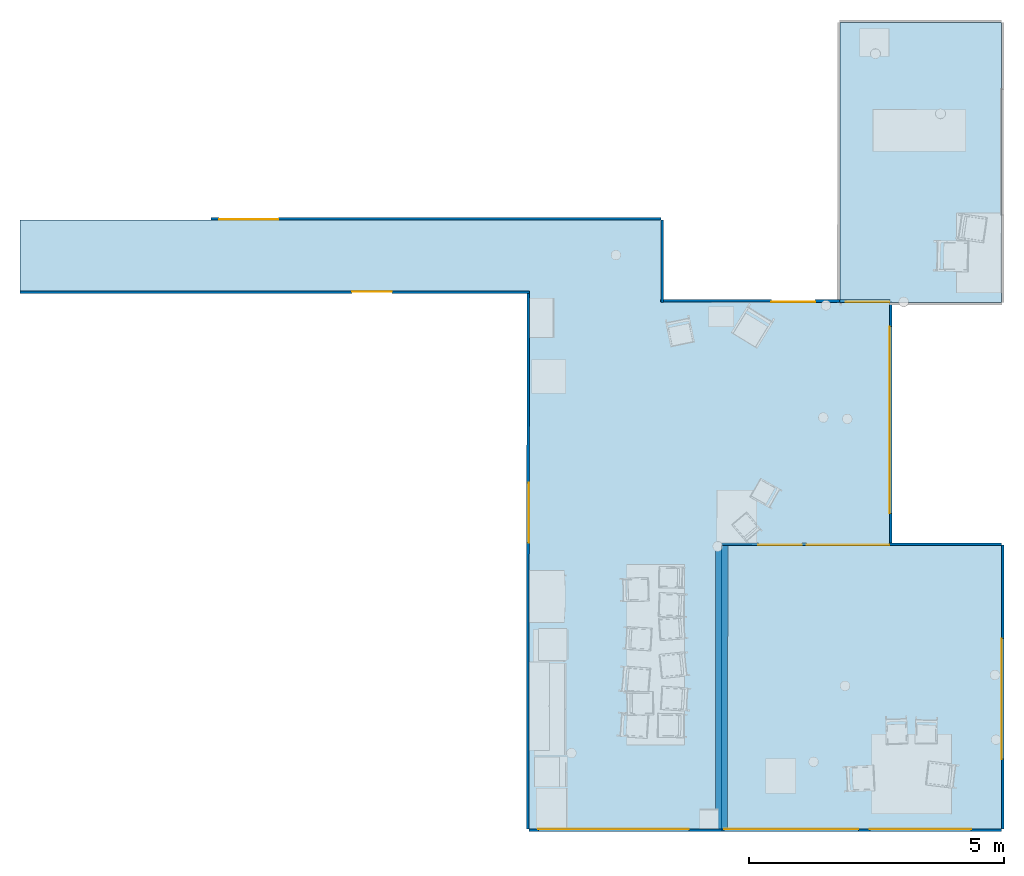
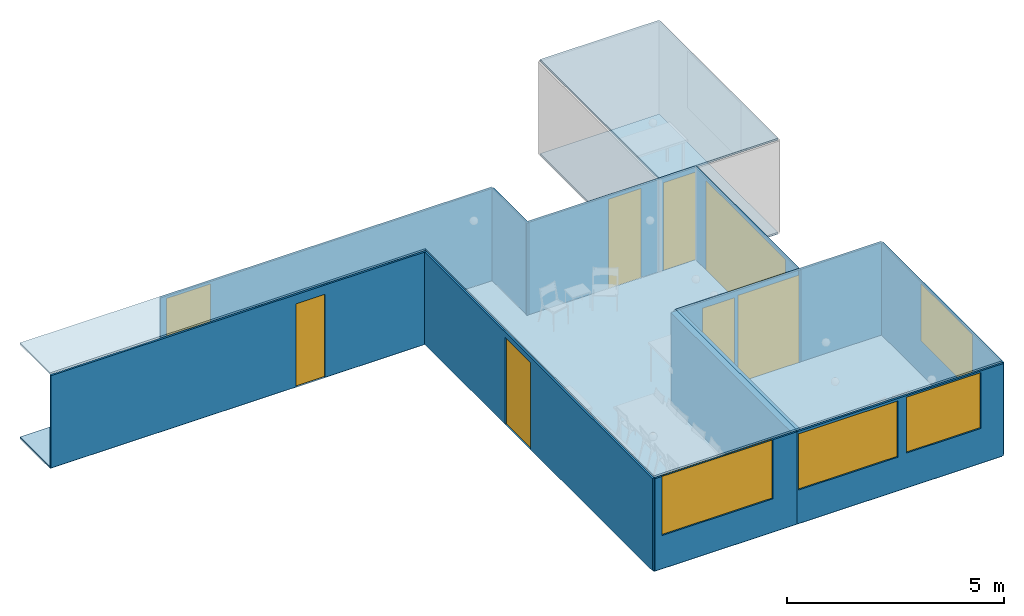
# One storey, part 1 of 12: 13 walls, 6 doors, 6 slabs, 6 windows, 12 openings.
"""IFC2X3 building model written with IfcOpenShell, lengths in metres."""

from ifc_helpers import new_model, si_unit, direction, frame, origin_with_axes, place, context, subcontext, project, spatial, polyline, outline, extrude, type_object, element, fill, save


model = new_model("IFC2X3")

# Units and contexts
model_context = context("Model", 3, precision=1e-05, world=origin_with_axes(), true_north=direction((0.999, -0.05, 0.0)))
body_context = subcontext(model_context, "Body", "Model", "MODEL_VIEW")
ifc_project = project(units=[si_unit("LENGTHUNIT", "METRE"), si_unit("AREAUNIT", "SQUARE_METRE")], contexts=[model_context])

# Site, building, storey
site_placement = place(None, origin_with_axes())
site = spatial("IfcSite", under=ifc_project, at=site_placement, Name="Site", CompositionType="ELEMENT")
building_placement = place(site_placement, origin_with_axes())
building = spatial("IfcBuilding", under=site, at=building_placement, Name="Building", CompositionType="ELEMENT")
storey_placement = place(building_placement, frame((0.0, 0.0, 5.96046447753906e-08), z_axis=(0.0, 0.0, 1.0), x_axis=(1.0, 0.0, 0.0)))
storey = spatial("IfcBuildingStorey", under=building, at=storey_placement, Name="Story 0", CompositionType="ELEMENT", Elevation=5.96046447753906e-08)

# Slabs
slab_type_1 = type_object("IfcSlabType", PredefinedType="FLOOR")
slab_1_placement = place(storey_placement, frame((4.93586017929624, 4.51694772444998, 0.0), z_axis=(0.0, 0.0, 1.0), x_axis=(-0.00965765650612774, 0.999953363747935, 0.0)))
element("IfcSlab", 1, at=slab_1_placement, inside=storey, type_object=slab_type_1, Name="Floor", ObjectType="Floor:Floor-Grnd-Susp_65Scr-80Ins-100Blk-75PC", PredefinedType="FLOOR", context=body_context, shape_type="SweptSolid", body=[
    extrude(outline(polyline([(0.510087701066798, 2.19046975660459), (1.48679288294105, 2.19046975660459), (1.43132437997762, -3.31276592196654), (-1.74178703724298, -3.28078206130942), (-1.6864179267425, 2.21260847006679), (0.510087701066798, 2.19046975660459)])), frame((0.0, 0.0, 0.0), z_axis=(0.0, 0.0, 1.0), x_axis=(0.0, 1.0, 0.0)), (0.0, 0.0, -1.0), 0.05),
])
slab_type_2 = type_object("IfcSlabType", PredefinedType="FLOOR")
slab_2_placement = place(storey_placement, frame((4.00673294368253, -4.68050126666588, 0.0), z_axis=(0.0, 0.0, 1.0), x_axis=(-0.000420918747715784, -0.9999999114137, 0.0)))
element("IfcSlab", 2, at=slab_2_placement, inside=storey, type_object=slab_type_2, Name="Floor", ObjectType="Floor:Floor-Grnd-Susp_65Scr-80Ins-100Blk-75PC", PredefinedType="FLOOR", context=body_context, shape_type="SweptSolid", body=[
    extrude(outline(polyline([(-2.85684441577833, 2.22703204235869), (0.437270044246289, 2.22703204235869), (2.63821109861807, 2.22703189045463), (2.63820872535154, -3.34054842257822), (-2.85684545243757, -3.34054755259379), (-2.85684441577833, 2.22703204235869)])), frame((0.0, 0.0, 0.0), z_axis=(0.0, 0.0, 1.0), x_axis=(0.0, 1.0, 0.0)), (0.0, 0.0, -1.0), 0.05),
])
slab_type_3 = type_object("IfcSlabType", PredefinedType="FLOOR")
slab_3_placement = place(storey_placement, frame((-1.0139318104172, 0.540352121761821, 0.0), z_axis=(0.0, 0.0, 1.0), x_axis=(-0.999999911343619, 0.000421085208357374, 0.0)))
element("IfcSlab", 3, at=slab_3_placement, inside=storey, type_object=slab_type_3, Name="Floor", ObjectType="Floor:Floor-Grnd-Susp_65Scr-80Ins-100Blk-75PC", PredefinedType="FLOOR", context=body_context, shape_type="SweptSolid", body=[
    extrude(outline(polyline([(-2.00071425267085, -1.61392851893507), (8.55928539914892, -1.61392851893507), (8.55928555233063, 2.16607150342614), (2.98928573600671, 2.16607139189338), (2.98928570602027, 5.46107134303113), (-1.77571432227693, 5.46107142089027), (-1.78571409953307, 7.19107146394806), (-1.78571436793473, 5.46107149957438), (-1.77571424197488, 4.48107132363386), (-1.78571422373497, 0.966071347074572), (-3.39571417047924, 0.966071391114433), (-3.39571426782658, -7.86392868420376), (-3.39571427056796, -11.6139285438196), (-2.0007141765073, -11.6139284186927), (-2.00071425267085, -1.61392851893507)])), frame((0.0, 0.0, 0.0), z_axis=(0.0, 0.0, 1.0), x_axis=(0.0, 1.0, 0.0)), (0.0, 0.0, -1.0), 0.05),
])
slab_type_4 = type_object("IfcSlabType", PredefinedType="ROOF")
slab_4_placement = place(storey_placement, frame((6.64356807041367, 2.32072928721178, 2.65180562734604), z_axis=(0.0, 0.0, -1.0), x_axis=(-0.999999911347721, 0.000421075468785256, 0.0)))
element("IfcSlab", 4, at=slab_4_placement, inside=storey, type_object=slab_type_4, Name="Ceiling", PredefinedType="ROOF", context=body_context, shape_type="SweptSolid", body=[
    extrude(outline(polyline([(-7.89299181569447e-17, 0.0), (5.49366956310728, 0.0), (5.4936709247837, -3.1732726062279), (-0.00984428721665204, -3.17327276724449), (-3.57486194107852e-07, -2.19661719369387), (-7.89299181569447e-17, 0.0)])), frame((0.0, 0.0, 0.0), z_axis=(0.0, 0.0, 1.0), x_axis=(0.0, 1.0, 0.0)), (0.0, 0.0, 1.0), 0.05),
])
slab_type_5 = type_object("IfcSlabType", PredefinedType="ROOF")
slab_5_placement = place(storey_placement, frame((1.14848164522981, -8.01984602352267, 2.65180562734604), z_axis=(0.0, 0.0, -1.0), x_axis=(0.000421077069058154, 0.999999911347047, 0.0)))
element("IfcSlab", 5, at=slab_5_placement, inside=storey, type_object=slab_type_5, Name="Ceiling", PredefinedType="ROOF", context=body_context, shape_type="SweptSolid", body=[
    extrude(outline(polyline([(4.29152284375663e-32, -1.8550699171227e-16), (5.49505417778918, -1.8550699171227e-16), (5.49505566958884, -5.56758031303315), (3.29411461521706, -5.56758011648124), (1.55192481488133e-07, -5.56757959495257), (4.29152284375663e-32, -1.8550699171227e-16)])), frame((0.0, 0.0, 0.0), z_axis=(0.0, 0.0, 1.0), x_axis=(2.31340220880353e-16, 1.0, 0.0)), (0.0, 0.0, 1.0), 0.05),
])
slab_type_6 = type_object("IfcSlabType", PredefinedType="ROOF")
slab_6_placement = place(storey_placement, frame((-12.6270167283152, 2.54595657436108, 2.65180562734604), z_axis=(0.0, 0.0, -1.0), x_axis=(-0.999999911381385, 0.000420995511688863, 0.0)))
element("IfcSlab", 6, at=slab_6_placement, inside=storey, type_object=slab_type_6, Name="Ceiling", PredefinedType="ROOF", context=body_context, shape_type="SweptSolid", body=[
    extrude(outline(polyline([(1.17961196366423e-16, -1.50208719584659e-31), (1.39500009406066, -3.47305812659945e-31), (1.39499975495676, 3.74999985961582), (1.39499886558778, 12.579999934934), (-0.215001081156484, 12.5799997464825), (-0.225001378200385, 16.0949997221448), (-0.215001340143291, 17.0749998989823), (-0.215001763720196, 18.8049998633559), (-0.225001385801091, 17.0749998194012), (-4.99000141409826, 17.0749993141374), (-4.99000114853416, 13.7799993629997), (-10.5600009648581, 13.7799989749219), (-10.5600004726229, 9.99999895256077), (-8.20803193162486e-07, 9.99999989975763), (1.17961196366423e-16, -1.50208719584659e-31)])), frame((0.0, 0.0, 0.0), z_axis=(0.0, 0.0, 1.0), x_axis=(-1.27337399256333e-15, 1.0, 0.0)), (0.0, 0.0, 1.0), 0.05),
])

# Wall, opening, door
wall_type_1 = type_object("IfcWallType", PredefinedType="STANDARD")
wall_1_placement = place(storey_placement, frame((3.46029572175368, 2.32206931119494, 2.60180562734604), z_axis=(0.0, 0.0, 0.99999997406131), x_axis=(-0.99999991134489, 0.000421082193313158, 0.0)))
wall_1 = element("IfcWallStandardCase", 7, at=wall_1_placement, inside=storey, type_object=wall_type_1, Name="Wall", context=body_context, shape_type="SweptSolid", body=[
    extrude(outline(polyline([(4.44089209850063e-16, 0.0), (0.996655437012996, 0.0), (0.996655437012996, -2.60180569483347), (4.44089209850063e-16, -2.60180569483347), (4.44089209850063e-16, 0.0)])), frame((0.0, 0.0, 0.0), z_axis=(0.0, 1.0, 0.0), x_axis=(-1.0, 0.0, 0.0)), (0.0, 0.0, -1.0), 0.05),
])
opening_1_placement = place(wall_1_placement, frame((-0.986655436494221, 0.0, -2.60180550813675), z_axis=(0.0, 0.0, 0.999999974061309), x_axis=(1.0, 0.0, 0.0)))
opening_1 = element("IfcOpeningElement", 8, at=opening_1_placement, cuts=wall_1, Name="OpeningElement", ObjectType="OPENING", context=body_context, shape_type="SweptSolid", body=[
    extrude(outline(polyline([(8.88178419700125e-16, 0.0), (8.88178419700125e-16, 2.46482217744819), (-0.856635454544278, 2.46482217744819), (-0.856635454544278, 0.0), (8.88178419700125e-16, 0.0)])), frame((0.0, 0.0, 0.0), z_axis=(0.0, 1.0, 0.0), x_axis=(-1.0, 0.0, 0.0)), (0.0, 0.0, -1.0), 0.05),
])
door_style_1 = type_object("IfcDoorStyle", Name="46522e81-1e2b-44fb-b676-12bd0fbe705c", ConstructionType="NOTDEFINED", OperationType="NOTDEFINED", ParameterTakesPrecedence=False, Sizeable=False)
door_1_placement = place(opening_1_placement, origin_with_axes())
door_1 = element("IfcDoor", 9, at=door_1_placement, inside=storey, type_object=door_style_1, Name="Door", OverallHeight=2.46482211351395, OverallWidth=0.856635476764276, context=body_context, shape_type="SweptSolid", body=[
    extrude(outline(polyline([(8.88178419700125e-16, 0.0), (8.88178419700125e-16, 2.46482217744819), (-0.856635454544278, 2.46482217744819), (-0.856635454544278, 0.0), (8.88178419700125e-16, 0.0)])), frame((0.0, 0.0, 0.0), z_axis=(0.0, 1.0, 0.0), x_axis=(-1.0, 0.0, 0.0)), (0.0, 0.0, -1.0), 0.01),
])
fill(opening_1, door_1)

# Wall, openings, door, window
wall_type_2 = type_object("IfcWallType", PredefinedType="STANDARD")
wall_2_placement = place(storey_placement, frame((1.14082618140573, -2.45226271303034, 0.0), z_axis=(0.0, 0.0, 0.999999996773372), x_axis=(-0.999999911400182, 0.000420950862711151, 0.0)))
wall_2 = element("IfcWallStandardCase", 10, at=wall_2_placement, inside=storey, type_object=wall_type_2, Name="Wall", context=body_context, shape_type="SweptSolid", body=[
    extrude(outline(polyline([(2.22044604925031e-16, 0.0), (2.22044604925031e-16, 2.6018056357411), (3.31411446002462, 2.6018056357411), (3.31411446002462, 0.0), (2.22044604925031e-16, 0.0)])), frame((0.0, 0.0, 0.0), z_axis=(0.0, 1.0, 0.0), x_axis=(-1.0, 0.0, 0.0)), (0.0, 0.0, -1.0), 0.05),
])
opening_2_placement = place(wall_2_placement, frame((-0.729658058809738, 0.0, 0.0), z_axis=(0.0, 0.0, 0.999999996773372), x_axis=(1.0, 0.0, 0.0)))
opening_2 = element("IfcOpeningElement", 11, at=opening_2_placement, cuts=wall_2, Name="OpeningElement", ObjectType="OPENING", context=body_context, shape_type="SweptSolid", body=[
    extrude(outline(polyline([(-2.22044604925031e-16, 0.0), (0.853934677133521, 0.0), (0.853934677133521, 2.42267221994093), (-2.22044604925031e-16, 2.42267221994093), (-2.22044604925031e-16, 0.0)])), frame((0.0, 0.0, 0.0), z_axis=(0.0, 1.0, 0.0), x_axis=(-1.0, 0.0, 0.0)), (0.0, 0.0, -1.0), 0.05),
])
opening_3_placement = place(wall_2_placement, frame((-3.30411442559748, 0.0, 0.0), z_axis=(0.0, 0.0, 0.999999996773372), x_axis=(1.0, 0.0, 0.0)))
opening_3 = element("IfcOpeningElement", 12, at=opening_3_placement, cuts=wall_2, Name="OpeningElement", ObjectType="OPENING", context=body_context, shape_type="SweptSolid", body=[
    extrude(outline(polyline([(0.0, 0.0), (0.0, 2.45762569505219), (-1.62419551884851, 2.45762569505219), (-1.62419551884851, 0.0), (0.0, 0.0)])), frame((0.0, 0.0, 0.0), z_axis=(0.0, 1.0, 0.0), x_axis=(-1.0, 0.0, 0.0)), (0.0, 0.0, -1.0), 0.05),
])
door_style_2 = type_object("IfcDoorStyle", Name="f192639b-d93c-490f-be9a-8558bc25e8b2", ConstructionType="NOTDEFINED", OperationType="NOTDEFINED", ParameterTakesPrecedence=False, Sizeable=False)
door_2_placement = place(opening_2_placement, origin_with_axes())
door_2 = element("IfcDoor", 13, at=door_2_placement, inside=storey, type_object=door_style_2, Name="Door", OverallHeight=2.42267221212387, OverallWidth=0.853934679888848, context=body_context, shape_type="SweptSolid", body=[
    extrude(outline(polyline([(-2.22044604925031e-16, 0.0), (0.853934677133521, 0.0), (0.853934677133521, 2.42267221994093), (-2.22044604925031e-16, 2.42267221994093), (-2.22044604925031e-16, 0.0)])), frame((0.0, 0.0, 0.0), z_axis=(0.0, 1.0, 0.0), x_axis=(-1.0, 0.0, 0.0)), (0.0, 0.0, -1.0), 0.01),
])
fill(opening_2, door_2)
window_style_1 = type_object("IfcWindowStyle", Name="9a584cee-ccff-41c9-80c4-704219f328ca", ConstructionType="ALUMINIUM", OperationType="SINGLE_PANEL", ParameterTakesPrecedence=True, Sizeable=True)
window_1_placement = place(opening_3_placement, origin_with_axes())
window_1 = element("IfcWindow", 14, at=window_1_placement, inside=storey, type_object=window_style_1, Name="Window", OverallHeight=1.5, OverallWidth=0.5, context=body_context, shape_type="SweptSolid", body=[
    extrude(outline(polyline([(0.0, 0.0), (0.0, 2.45762569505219), (-1.62419551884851, 2.45762569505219), (-1.62419551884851, 0.0), (0.0, 0.0)])), frame((0.0, 0.0, 0.0), z_axis=(0.0, 1.0, 0.0), x_axis=(-1.0, 0.0, 0.0)), (0.0, 0.0, -1.0), 0.01),
])
fill(opening_3, window_1)

# Wall
wall_type_3 = type_object("IfcWallType", PredefinedType="STANDARD")
wall_3_placement = place(storey_placement, frame((4.43994034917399, -2.45365137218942, 2.60180562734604), z_axis=(0.0, 0.0, 0.999999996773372), x_axis=(-0.999999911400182, 0.000420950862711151, 0.0)))
element("IfcWallStandardCase", 15, at=wall_3_placement, inside=storey, type_object=wall_type_3, Name="Wall", context=body_context, shape_type="SweptSolid", body=[
    extrude(outline(polyline([(0.0, 0.0), (2.21094060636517, 0.0), (2.21094060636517, -2.6018056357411), (0.0, -2.6018056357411), (0.0, 0.0)])), frame((0.0, 0.0, 0.0), z_axis=(0.0, 1.0, 0.0), x_axis=(-1.0, 0.0, 0.0)), (0.0, 0.0, -1.0), 0.05),
])

# Wall, opening, window
wall_type_4 = type_object("IfcWallType", PredefinedType="STANDARD")
wall_4_placement = place(storey_placement, frame((6.64588331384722, -2.44958004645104, 0.0), z_axis=(0.0, 0.0, 0.999999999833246), x_axis=(0.000421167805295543, 0.999999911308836, 0.0)))
wall_4 = element("IfcWallStandardCase", 16, at=wall_4_placement, inside=storey, type_object=wall_type_4, Name="Wall", context=body_context, shape_type="SweptSolid", body=[
    extrude(outline(polyline([(-5.20417042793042e-17, 0.0), (-5.20417042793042e-17, 2.6018056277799), (5.5775801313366, 2.6018056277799), (5.5775801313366, 0.0), (-5.20417042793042e-17, 0.0)])), frame((0.0, 0.0, 0.0), z_axis=(0.0, 1.0, 0.0), x_axis=(-1.0, 0.0, 0.0)), (0.0, 0.0, -1.0), 0.05),
])
opening_4_placement = place(wall_4_placement, frame((-1.83200303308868, 0.0, 2.5576257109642), z_axis=(0.0, 0.0, 0.999999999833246), x_axis=(1.0, 0.0, 0.0)))
opening_4 = element("IfcOpeningElement", 17, at=opening_4_placement, cuts=wall_4, Name="OpeningElement", ObjectType="OPENING", context=body_context, shape_type="SweptSolid", body=[
    extrude(outline(polyline([(3.94649590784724e-17, 0.0), (3.94649590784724e-17, -1.61371445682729), (2.37026546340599, -1.61371445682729), (2.37026546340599, 0.0), (3.94649590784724e-17, 0.0)])), frame((0.0, 0.0, 0.0), z_axis=(0.0, 1.0, 0.0), x_axis=(-1.0, 0.0, 0.0)), (0.0, 0.0, -1.0), 0.05),
])
window_style_2 = type_object("IfcWindowStyle", Name="44de0ee3-9e7e-4639-b1b3-e5b4b995d6e7", ConstructionType="ALUMINIUM", OperationType="SINGLE_PANEL", ParameterTakesPrecedence=True, Sizeable=True)
window_2_placement = place(opening_4_placement, origin_with_axes())
window_2 = element("IfcWindow", 18, at=window_2_placement, inside=storey, type_object=window_style_2, Name="Window", OverallHeight=1.5, OverallWidth=0.5, context=body_context, shape_type="SweptSolid", body=[
    extrude(outline(polyline([(3.94649590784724e-17, 0.0), (3.94649590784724e-17, -1.61371445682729), (2.37026546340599, -1.61371445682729), (2.37026546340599, 0.0), (3.94649590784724e-17, 0.0)])), frame((0.0, 0.0, 0.0), z_axis=(0.0, 1.0, 0.0), x_axis=(-1.0, 0.0, 0.0)), (0.0, 0.0, -1.0), 0.01),
])
fill(opening_4, window_2)

# Wall
wall_type_5 = type_object("IfcWallType", PredefinedType="STANDARD")
wall_5_placement = place(storey_placement, frame((1.2687817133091, -8.01989668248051, 0.0), z_axis=(0.0, 0.0, 1.00000003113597), x_axis=(-0.000421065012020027, -0.999999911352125, 0.0)))
element("IfcWallStandardCase", 19, at=wall_5_placement, inside=storey, type_object=wall_type_5, Name="Wall", context=body_context, shape_type="SweptSolid", body=[
    extrude(outline(polyline([(3.31223763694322e-16, 0.0), (3.31223763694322e-16, 2.6018055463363), (5.56757959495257, 2.6018055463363), (5.56757959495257, 0.0), (3.31223763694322e-16, 0.0)])), frame((0.0, 0.0, 0.0), z_axis=(0.0, 1.0, 0.0), x_axis=(-1.0, 0.0, 0.0)), (0.0, 0.0, -1.0), 0.24060015),
])

# Wall, openings, windows
wall_type_6 = type_object("IfcWallType", PredefinedType="STANDARD")
wall_6_placement = place(storey_placement, frame((6.64853533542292, -8.02216197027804, 0.0), z_axis=(0.0, 0.0, 1.00000003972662), x_axis=(0.999999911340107, -0.000421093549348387, 0.0)))
wall_6 = element("IfcWallStandardCase", 20, at=wall_6_placement, inside=storey, type_object=wall_type_6, Name="Wall", context=body_context, shape_type="SweptSolid", body=[
    extrude(outline(polyline([(0.0, 0.0), (0.0, 2.60180552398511), (5.50505440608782, 2.60180552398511), (5.50505440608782, 0.0), (0.0, 0.0)])), frame((0.0, 0.0, 0.0), z_axis=(0.0, 1.0, 0.0), x_axis=(-1.0, 0.0, 0.0)), (0.0, 0.0, -1.0), 0.05),
])
opening_5_placement = place(wall_6_placement, frame((-2.81135728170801, 0.0, 2.5313326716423), z_axis=(0.0, 0.0, 1.00000003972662), x_axis=(1.0, 0.0, 0.0)))
opening_5 = element("IfcOpeningElement", 21, at=opening_5_placement, cuts=wall_6, Name="OpeningElement", ObjectType="OPENING", context=body_context, shape_type="SweptSolid", body=[
    extrude(outline(polyline([(0.0, 0.0), (0.0, -1.58551674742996), (2.63990953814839, -1.58551674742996), (2.63990953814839, 0.0), (0.0, 0.0)])), frame((0.0, 0.0, 0.0), z_axis=(0.0, 1.0, 0.0), x_axis=(-1.0, 0.0, 0.0)), (0.0, 0.0, -1.0), 0.05),
])
opening_6_placement = place(wall_6_placement, frame((-0.599556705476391, 0.0, 2.55762547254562), z_axis=(0.0, 0.0, 1.00000003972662), x_axis=(1.0, 0.0, 0.0)))
opening_6 = element("IfcOpeningElement", 22, at=opening_6_placement, cuts=wall_6, Name="OpeningElement", ObjectType="OPENING", context=body_context, shape_type="SweptSolid", body=[
    extrude(outline(polyline([(0.0, 0.0), (0.0, -1.57631319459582), (1.9858778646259, -1.57631319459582), (1.9858778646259, 0.0), (0.0, 0.0)])), frame((0.0, 0.0, 0.0), z_axis=(0.0, 1.0, 0.0), x_axis=(-1.0, 0.0, 0.0)), (0.0, 0.0, -1.0), 0.05),
])
window_style_3 = type_object("IfcWindowStyle", Name="4037f67b-db75-44e2-acdc-bd9fff1bc3bb", ConstructionType="ALUMINIUM", OperationType="SINGLE_PANEL", ParameterTakesPrecedence=True, Sizeable=True)
window_3_placement = place(opening_5_placement, origin_with_axes())
window_3 = element("IfcWindow", 23, at=window_3_placement, inside=storey, type_object=window_style_3, Name="Window", OverallHeight=1.5, OverallWidth=0.5, context=body_context, shape_type="SweptSolid", body=[
    extrude(outline(polyline([(0.0, 0.0), (0.0, -1.58551674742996), (2.63990953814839, -1.58551674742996), (2.63990953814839, 0.0), (0.0, 0.0)])), frame((0.0, 0.0, 0.0), z_axis=(0.0, 1.0, 0.0), x_axis=(-1.0, 0.0, 0.0)), (0.0, 0.0, -1.0), 0.01),
])
fill(opening_5, window_3)
window_style_4 = type_object("IfcWindowStyle", Name="9d87d5b0-3157-416e-b5c1-8492e233b7ea", ConstructionType="ALUMINIUM", OperationType="SINGLE_PANEL", ParameterTakesPrecedence=True, Sizeable=True)
window_4_placement = place(opening_6_placement, origin_with_axes())
window_4 = element("IfcWindow", 24, at=window_4_placement, inside=storey, type_object=window_style_4, Name="Window", OverallHeight=1.5, OverallWidth=0.5, context=body_context, shape_type="SweptSolid", body=[
    extrude(outline(polyline([(0.0, 0.0), (0.0, -1.57631319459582), (1.9858778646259, -1.57631319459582), (1.9858778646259, 0.0), (0.0, 0.0)])), frame((0.0, 0.0, 0.0), z_axis=(0.0, 1.0, 0.0), x_axis=(-1.0, 0.0, 0.0)), (0.0, 0.0, -1.0), 0.01),
])
fill(opening_6, window_4)

# Wall
wall_type_7 = type_object("IfcWallType", PredefinedType="STANDARD")
wall_7_placement = place(storey_placement, frame((-0.0439445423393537, 3.94103710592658, 0.0), z_axis=(0.0, 0.0, 1.00000009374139), x_axis=(0.000420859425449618, 0.999999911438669, 0.0)))
element("IfcWallStandardCase", 25, at=wall_7_placement, inside=storey, type_object=wall_type_7, Name="Wall", context=body_context, shape_type="SweptSolid", body=[
    extrude(outline(polyline([(1.22687640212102e-16, 0.0), (1.22687640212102e-16, 2.60180538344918), (1.62249215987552, 2.60180538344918), (1.62249215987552, 0.0), (1.22687640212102e-16, 0.0)])), frame((0.0, 0.0, 0.0), z_axis=(0.0, 1.0, 0.0), x_axis=(-1.0, 0.0, 0.0)), (0.0, 0.0, -1.0), 0.05),
])

# Wall, opening, door
wall_type_8 = type_object("IfcWallType", PredefinedType="STANDARD")
wall_8_placement = place(storey_placement, frame((-2.63041196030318, -8.0232540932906, 0.0), z_axis=(0.0, 0.0, 1.00000007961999), x_axis=(-0.000421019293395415, -0.999999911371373, 0.0)))
wall_8 = element("IfcWallStandardCase", 26, at=wall_8_placement, inside=storey, type_object=wall_type_8, Name="Wall", context=body_context, shape_type="SweptSolid", body=[
    extrude(outline(polyline([(1.84964890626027e-16, 0.0), (1.84964890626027e-16, 2.60180542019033), (10.5691558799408, 2.60180542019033), (10.5691558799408, 0.0), (1.84964890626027e-16, 0.0)])), frame((0.0, 0.0, 0.0), z_axis=(0.0, 1.0, 0.0), x_axis=(-1.0, 0.0, 0.0)), (0.0, 0.0, -1.0), 0.05),
])
opening_7_placement = place(wall_8_placement, frame((-5.62343763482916, 0.0, 2.44984549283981), z_axis=(0.0, 0.0, 1.00000007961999), x_axis=(1.0, 0.0, 0.0)))
opening_7 = element("IfcOpeningElement", 27, at=opening_7_placement, cuts=wall_8, Name="OpeningElement", ObjectType="OPENING", context=body_context, shape_type="SweptSolid", body=[
    extrude(outline(polyline([(-1.73472347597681e-16, 0.0), (-1.73472347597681e-16, -2.44984517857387), (1.17636096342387, -2.44984517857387), (1.17636096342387, 0.0), (-1.73472347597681e-16, 0.0)])), frame((0.0, 0.0, 0.0), z_axis=(0.0, 1.0, 0.0), x_axis=(-1.0, 0.0, 0.0)), (0.0, 0.0, -1.0), 0.05),
])
door_style_3 = type_object("IfcDoorStyle", Name="94ca1fd6-81a5-42b8-810d-35ad82652a43", ConstructionType="NOTDEFINED", OperationType="NOTDEFINED", ParameterTakesPrecedence=False, Sizeable=False)
door_3_placement = place(opening_7_placement, origin_with_axes())
door_3 = element("IfcDoor", 28, at=door_3_placement, inside=storey, type_object=door_style_3, Name="Door", OverallHeight=2.44984537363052, OverallWidth=1.17636086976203, context=body_context, shape_type="SweptSolid", body=[
    extrude(outline(polyline([(-1.73472347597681e-16, 0.0), (-1.73472347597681e-16, -2.44984517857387), (1.17636096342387, -2.44984517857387), (1.17636096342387, 0.0), (-1.73472347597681e-16, 0.0)])), frame((0.0, 0.0, 0.0), z_axis=(0.0, 1.0, 0.0), x_axis=(-1.0, 0.0, 0.0)), (0.0, 0.0, -1.0), 0.01),
])
fill(opening_7, door_3)

wall_type_9 = type_object("IfcWallType", PredefinedType="STANDARD")
wall_9_placement = place(storey_placement, frame((-0.0496248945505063, 2.32354705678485, 0.0), z_axis=(0.0, 0.0, 0.999999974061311), x_axis=(-0.999999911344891, 0.000421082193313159, 0.0)))
wall_9 = element("IfcWallStandardCase", 29, at=wall_9_placement, inside=storey, type_object=wall_type_9, Name="Wall", context=body_context, shape_type="SweptSolid", body=[
    extrude(outline(polyline([(6.93889390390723e-18, 0.0), (6.93889390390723e-18, 2.60180569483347), (3.52492092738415, 2.60180569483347), (3.52492092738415, 0.0), (6.93889390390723e-18, 0.0)])), frame((0.0, 0.0, 0.0), z_axis=(0.0, 1.0, 0.0), x_axis=(-1.0, 0.0, 0.0)), (0.0, 0.0, -1.0), 0.05),
])
opening_8_placement = place(wall_9_placement, frame((-2.17872568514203, 0.0, 2.51458138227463), z_axis=(0.0, 0.0, 0.999999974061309), x_axis=(1.0, 0.0, 0.0)))
opening_8 = element("IfcOpeningElement", 30, at=opening_8_placement, cuts=wall_9, Name="OpeningElement", ObjectType="OPENING", context=body_context, shape_type="SweptSolid", body=[
    extrude(outline(polyline([(0.0, 0.0), (0.0, -2.51458132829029), (0.858614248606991, -2.51458132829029), (0.858614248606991, 0.0), (0.0, 0.0)])), frame((0.0, 0.0, 0.0), z_axis=(0.0, 1.0, 0.0), x_axis=(-1.0, 0.0, 0.0)), (0.0, 0.0, -1.0), 0.05),
])
door_style_4 = type_object("IfcDoorStyle", Name="9a87be15-ed0e-4d82-b119-ac0084963e18", ConstructionType="NOTDEFINED", OperationType="NOTDEFINED", ParameterTakesPrecedence=False, Sizeable=False)
door_4_placement = place(opening_8_placement, origin_with_axes())
door_4 = element("IfcDoor", 31, at=door_4_placement, inside=storey, type_object=door_style_4, Name="Door", OverallHeight=2.51458126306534, OverallWidth=0.85861427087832, context=body_context, shape_type="SweptSolid", body=[
    extrude(outline(polyline([(0.0, 0.0), (0.0, -2.51458132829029), (0.858614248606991, -2.51458132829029), (0.858614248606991, 0.0), (0.0, 0.0)])), frame((0.0, 0.0, 0.0), z_axis=(0.0, 1.0, 0.0), x_axis=(-1.0, 0.0, 0.0)), (0.0, 0.0, -1.0), 0.01),
])
fill(opening_8, door_4)

wall_type_10 = type_object("IfcWallType", PredefinedType="STANDARD")
wall_10_placement = place(storey_placement, frame((-2.62096378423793, 2.54089901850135, 0.0), z_axis=(0.0, 0.0, 0.999999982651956), x_axis=(0.999999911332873, -0.000421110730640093, 0.0)))
wall_10 = element("IfcWallStandardCase", 32, at=wall_10_placement, inside=storey, type_object=wall_type_10, Name="Wall", context=body_context, shape_type="SweptSolid", body=[
    extrude(outline(polyline([(0.0, 0.0), (0.0, 2.60180567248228), (10.0087497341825, 2.60180567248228), (10.0087497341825, 0.0), (0.0, 0.0)])), frame((0.0, 0.0, 0.0), z_axis=(0.0, 1.0, 0.0), x_axis=(-1.0, 0.0, 0.0)), (0.0, 0.0, -1.0), 0.05),
])
opening_9_placement = place(wall_10_placement, frame((-2.70555375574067, 0.0, 0.0), z_axis=(0.0, 0.0, 0.999999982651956), x_axis=(1.0, 0.0, 0.0)))
opening_9 = element("IfcOpeningElement", 33, at=opening_9_placement, cuts=wall_10, Name="OpeningElement", ObjectType="OPENING", context=body_context, shape_type="SweptSolid", body=[
    extrude(outline(polyline([(0.0, 0.0), (0.781152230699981, 0.0), (0.781152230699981, 2.34355543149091), (0.0, 2.34355543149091), (0.0, 0.0)])), frame((0.0, 0.0, 0.0), z_axis=(0.0, 1.0, 0.0), x_axis=(-1.0, 0.0, 0.0)), (0.0, 0.0, -1.0), 0.05),
])
door_style_5 = type_object("IfcDoorStyle", Name="eac380d0-d28c-4361-8366-418dd0410682", ConstructionType="NOTDEFINED", OperationType="NOTDEFINED", ParameterTakesPrecedence=False, Sizeable=False)
door_5_placement = place(opening_9_placement, origin_with_axes())
door_5 = element("IfcDoor", 34, at=door_5_placement, inside=storey, type_object=door_style_5, Name="Door", OverallHeight=2.34355539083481, OverallWidth=0.781152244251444, context=body_context, shape_type="SweptSolid", body=[
    extrude(outline(polyline([(0.0, 0.0), (0.781152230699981, 0.0), (0.781152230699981, 2.34355543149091), (0.0, 2.34355543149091), (0.0, 0.0)])), frame((0.0, 0.0, 0.0), z_axis=(0.0, 1.0, 0.0), x_axis=(-1.0, 0.0, 0.0)), (0.0, 0.0, -1.0), 0.01),
])
fill(opening_9, door_5)

wall_type_11 = type_object("IfcWallType", PredefinedType="STANDARD")
wall_11_placement = place(storey_placement, frame((-8.8804941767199, 3.93975761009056, 0.0), z_axis=(0.0, 0.0, 0.999999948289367), x_axis=(-0.999999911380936, 0.000420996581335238, 0.0)))
wall_11 = element("IfcWallStandardCase", 35, at=wall_11_placement, inside=storey, type_object=wall_type_11, Name="Wall", context=body_context, shape_type="SweptSolid", body=[
    extrude(outline(polyline([(0.0, 0.0), (0.0, 2.60180576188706), (8.84154822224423, 2.60180576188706), (8.84154822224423, 0.0), (0.0, 0.0)])), frame((0.0, 0.0, 0.0), z_axis=(0.0, 1.0, 0.0), x_axis=(-1.0, 0.0, 0.0)), (0.0, 0.0, -1.0), 0.05),
])
opening_10_placement = place(wall_11_placement, frame((-0.162705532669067, 0.0, 2.53362745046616), z_axis=(0.0, 0.0, 0.999999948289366), x_axis=(1.0, 0.0, 0.0)))
opening_10 = element("IfcOpeningElement", 36, at=opening_10_placement, cuts=wall_11, Name="OpeningElement", ObjectType="OPENING", context=body_context, shape_type="SweptSolid", body=[
    extrude(outline(polyline([(-1.77635683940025e-15, 0.0), (-1.77635683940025e-15, -2.53362746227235), (1.16308357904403, -2.53362746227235), (1.16308357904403, 0.0), (-1.77635683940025e-15, 0.0)])), frame((0.0, 0.0, 0.0), z_axis=(0.0, 1.0, 0.0), x_axis=(-1.0, 0.0, 0.0)), (0.0, 0.0, -1.0), 0.05),
])
door_style_6 = type_object("IfcDoorStyle", Name="ee2db214-cb6d-41f2-8932-355a34c005e7", ConstructionType="NOTDEFINED", OperationType="NOTDEFINED", ParameterTakesPrecedence=False, Sizeable=False)
door_6_placement = place(opening_10_placement, origin_with_axes())
door_6 = element("IfcDoor", 37, at=door_6_placement, inside=storey, type_object=door_style_6, Name="Door", OverallHeight=2.53362733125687, OverallWidth=1.16308363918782, context=body_context, shape_type="SweptSolid", body=[
    extrude(outline(polyline([(-1.77635683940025e-15, 0.0), (-1.77635683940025e-15, -2.53362746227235), (1.16308357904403, -2.53362746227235), (1.16308357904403, 0.0), (-1.77635683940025e-15, 0.0)])), frame((0.0, 0.0, 0.0), z_axis=(0.0, 1.0, 0.0), x_axis=(-1.0, 0.0, 0.0)), (0.0, 0.0, -1.0), 0.01),
])
fill(opening_10, door_6)

# Wall, opening, window
wall_type_12 = type_object("IfcWallType", PredefinedType="STANDARD")
wall_12_placement = place(storey_placement, frame((1.15348178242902, -8.0198476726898, 0.0), z_axis=(0.0, 0.0, 1.00000003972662), x_axis=(0.999999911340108, -0.000421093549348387, 0.0)))
wall_12 = element("IfcWallStandardCase", 38, at=wall_12_placement, inside=storey, type_object=wall_type_12, Name="Wall", context=body_context, shape_type="SweptSolid", body=[
    extrude(outline(polyline([(0.0, 0.0), (0.0, 2.6018055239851), (3.78889188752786, 2.6018055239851), (3.78889188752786, 0.0), (0.0, 0.0)])), frame((0.0, 0.0, 0.0), z_axis=(0.0, 1.0, 0.0), x_axis=(-1.0, 0.0, 0.0)), (0.0, 0.0, -1.0), 0.05),
])
opening_11_placement = place(wall_12_placement, frame((-0.644901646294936, 0.0, 2.60180538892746), z_axis=(0.0, 0.0, 1.00000003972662), x_axis=(1.0, 0.0, 0.0)))
opening_11 = element("IfcOpeningElement", 39, at=opening_11_placement, cuts=wall_12, Name="OpeningElement", ObjectType="OPENING", context=body_context, shape_type="SweptSolid", body=[
    extrude(outline(polyline([(-1.11022302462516e-16, 0.0), (-1.11022302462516e-16, -1.66443341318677), (2.95581384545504, -1.66443341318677), (2.95581384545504, 0.0), (-1.11022302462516e-16, 0.0)])), frame((0.0, 0.0, 0.0), z_axis=(0.0, 1.0, 0.0), x_axis=(-1.0, 0.0, 0.0)), (0.0, 0.0, -1.0), 0.05),
])
window_style_5 = type_object("IfcWindowStyle", Name="30f01e36-4c1e-470f-bd43-b94769d4a89f", ConstructionType="ALUMINIUM", OperationType="SINGLE_PANEL", ParameterTakesPrecedence=True, Sizeable=True)
window_5_placement = place(opening_11_placement, origin_with_axes())
window_5 = element("IfcWindow", 40, at=window_5_placement, inside=storey, type_object=window_style_5, Name="Window", OverallHeight=1.5, OverallWidth=0.5, context=body_context, shape_type="SweptSolid", body=[
    extrude(outline(polyline([(-1.11022302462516e-16, 0.0), (-1.11022302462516e-16, -1.66443341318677), (2.95581384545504, -1.66443341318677), (2.95581384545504, 0.0), (-1.11022302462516e-16, 0.0)])), frame((0.0, 0.0, 0.0), z_axis=(0.0, 1.0, 0.0), x_axis=(-1.0, 0.0, 0.0)), (0.0, 0.0, -1.0), 0.01),
])
fill(opening_11, window_5)

wall_type_13 = type_object("IfcWallType", PredefinedType="STANDARD")
wall_13_placement = place(storey_placement, frame((4.44695310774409, 2.3266536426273, 0.0), z_axis=(0.0, 0.0, 1.00000002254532), x_axis=(0.000421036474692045, 0.99999991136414, 0.0)))
wall_13 = element("IfcWallStandardCase", 41, at=wall_13_placement, inside=storey, type_object=wall_type_13, Name="Wall", context=body_context, shape_type="SweptSolid", body=[
    extrude(outline(polyline([(-1.64798730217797e-17, 0.0), (-1.64798730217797e-17, 2.6018055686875), (4.78530754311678, 2.6018055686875), (4.78530754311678, 0.0), (-1.64798730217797e-17, 0.0)])), frame((0.0, 0.0, 0.0), z_axis=(0.0, 1.0, 0.0), x_axis=(-1.0, 0.0, 0.0)), (0.0, 0.0, -1.0), 0.05),
])
opening_12_placement = place(wall_13_placement, frame((-0.484453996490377, 0.0, 2.5191063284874), z_axis=(0.0, 0.0, 1.00000002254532), x_axis=(1.0, 0.0, 0.0)))
opening_12 = element("IfcOpeningElement", 42, at=opening_12_placement, cuts=wall_13, Name="OpeningElement", ObjectType="OPENING", context=body_context, shape_type="SweptSolid", body=[
    extrude(outline(polyline([(-5.31259064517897e-17, 0.0), (-5.31259064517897e-17, -2.51910615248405), (3.66515907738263, -2.51910615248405), (3.66515907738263, 0.0), (-5.31259064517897e-17, 0.0)])), frame((0.0, 0.0, 0.0), z_axis=(0.0, 1.0, 0.0), x_axis=(-1.0, 0.0, 0.0)), (0.0, 0.0, -1.0), 0.05),
])
window_style_6 = type_object("IfcWindowStyle", Name="a9c7ad43-5ec7-4fd6-a2f7-79c7406e2901", ConstructionType="ALUMINIUM", OperationType="SINGLE_PANEL", ParameterTakesPrecedence=True, Sizeable=True)
window_6_placement = place(opening_12_placement, origin_with_axes())
window_6 = element("IfcWindow", 43, at=window_6_placement, inside=storey, type_object=window_style_6, Name="Window", OverallHeight=1.5, OverallWidth=0.5, context=body_context, shape_type="SweptSolid", body=[
    extrude(outline(polyline([(-5.31259064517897e-17, 0.0), (-5.31259064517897e-17, -2.51910615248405), (3.66515907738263, -2.51910615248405), (3.66515907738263, 0.0), (-5.31259064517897e-17, 0.0)])), frame((0.0, 0.0, 0.0), z_axis=(0.0, 1.0, 0.0), x_axis=(-1.0, 0.0, 0.0)), (0.0, 0.0, -1.0), 0.01),
])
fill(opening_12, window_6)

save(model, "model.ifc")
